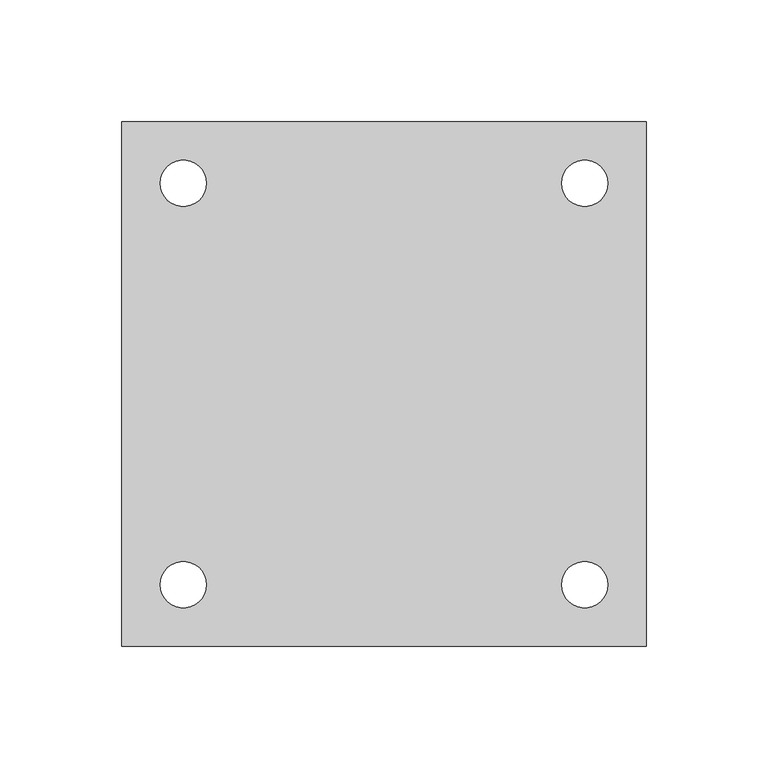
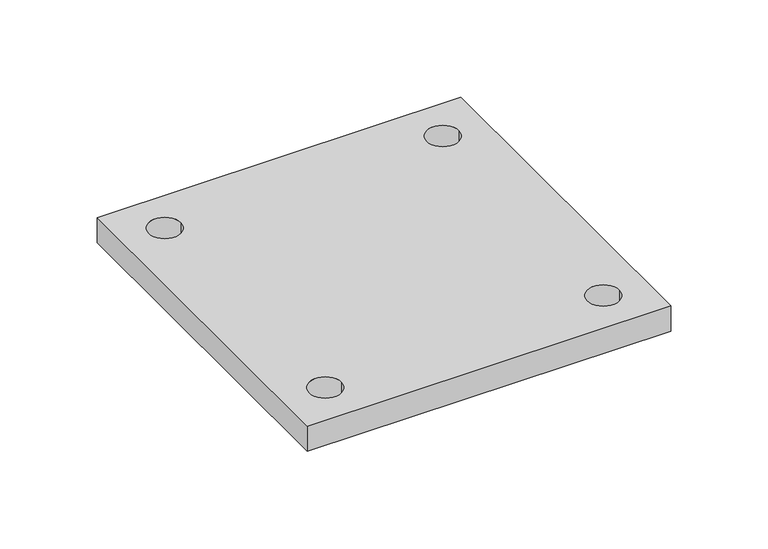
"""IFC4 building model written with IfcOpenShell, lengths in millimetres: proxy geometry, 14AF-BP1 : 14AF-BP2."""

from ifc_helpers import new_model, si_unit, point, frame_2d, origin, origin_with_axes, place, context, project, spatial, polyline, circle_curve, trimmed, segment, composite_curve, outline, extrude, source, transform, mapped, element, save


def generic_models_8fb2d385(model_context):
    return source(origin(), model_context, "Body", "SweptSolid", [
        extrude(outline(polyline([(107.95, 107.95), (107.95, -107.95), (-107.95, -107.95), (-107.95, 107.95), (107.95, 107.95)]), holes=[composite_curve([segment(trimmed(circle_curve(frame_2d((-82.55, 82.55)), 9.525), [point((-92.075, 82.55))], [point((-73.025, 82.55))], True, "CARTESIAN"), True, "CONTINUOUS"), segment(trimmed(circle_curve(frame_2d((-82.55, 82.55)), 9.525), [point((-73.025, 82.55))], [point((-92.075, 82.55))], True, "CARTESIAN"), True, "CONTINUOUS")], self_intersect=False), composite_curve([segment(trimmed(circle_curve(frame_2d((82.55, 82.55)), 9.525), [point((73.025, 82.55))], [point((92.075, 82.55))], True, "CARTESIAN"), True, "CONTINUOUS"), segment(trimmed(circle_curve(frame_2d((82.55, 82.55)), 9.525), [point((92.075, 82.55))], [point((73.025, 82.55))], True, "CARTESIAN"), True, "CONTINUOUS")], self_intersect=False), composite_curve([segment(trimmed(circle_curve(frame_2d((82.55, -82.55)), 9.525), [point((73.025, -82.55))], [point((92.075, -82.55))], True, "CARTESIAN"), True, "CONTINUOUS"), segment(trimmed(circle_curve(frame_2d((82.55, -82.55)), 9.525), [point((92.075, -82.55))], [point((73.025, -82.55))], True, "CARTESIAN"), True, "CONTINUOUS")], self_intersect=False), composite_curve([segment(trimmed(circle_curve(frame_2d((-82.55, -82.55)), 9.525), [point((-92.075, -82.55))], [point((-73.025, -82.55))], True, "CARTESIAN"), True, "CONTINUOUS"), segment(trimmed(circle_curve(frame_2d((-82.55, -82.55)), 9.525), [point((-73.025, -82.55))], [point((-92.075, -82.55))], True, "CARTESIAN"), True, "CONTINUOUS")], self_intersect=False)]), origin_with_axes(), (0.0, 0.0, 1.0), 15.875),
    ])


if __name__ == "__main__":
    model = new_model("IFC4")
    model_context = context("Model", 3, world=origin())
    ifc_project = project(units=[si_unit("LENGTHUNIT", "METRE", prefix="MILLI")], contexts=[model_context])
    site = spatial("IfcSite", under=ifc_project)
    building = spatial("IfcBuilding", under=site)
    placement = place(None, origin())
    generic_models_shape = generic_models_8fb2d385(model_context)
    element("IfcBuildingElementProxy", 1, Name="14AF-BP1 : 14AF-BP2", ObjectType="14AF-BP1 : 14AF-BP2", at=placement, inside=building, context=model_context, shape_type="MappedRepresentation", body=[
        mapped(generic_models_shape, transform((0.0, 0.0, 0.0), x_axis=(1.0, 0.0, 0.0), y_axis=(0.0, 1.0, 0.0), z_axis=(0.0, 0.0, 1.0))),
    ])
    save(model, "model.ifc")
